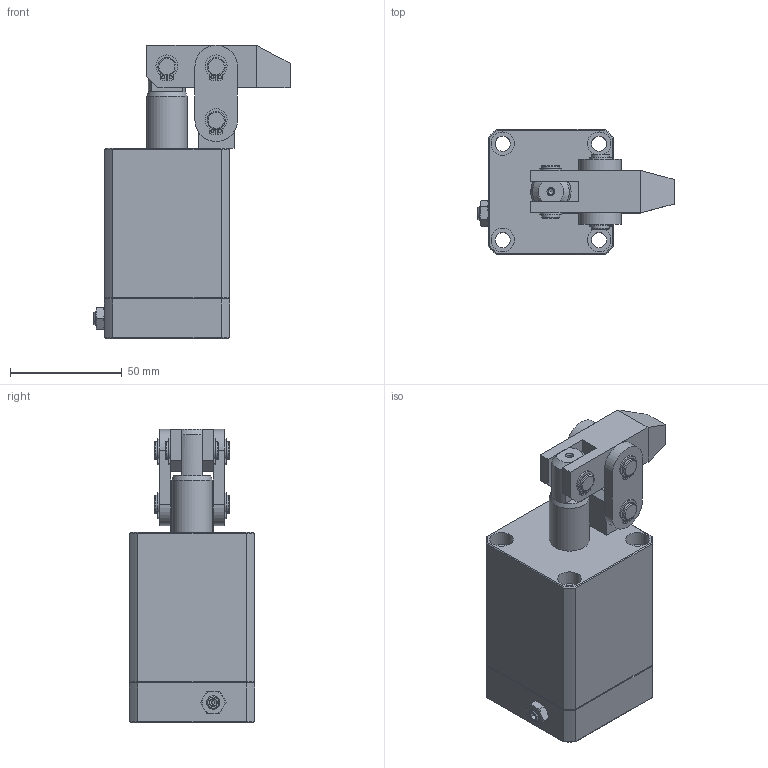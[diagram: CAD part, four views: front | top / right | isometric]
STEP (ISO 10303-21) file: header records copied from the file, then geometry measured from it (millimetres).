
FILE_DESCRIPTION(/* description */ ('Unknown'),/* implementation_level */ '2;1');
FILE_NAME(/* name */ 'HLB-MF25-A',/* time_stamp */ '2025-06-04T00:57:58+08:00',/* author */ ('Unknown'),/* organization */ ('Unknown'),/* preprocessor_version */ 'ST-DEVELOPER v16.7',/* originating_system */ 'DEX',/* authorisation */ $);
FILE_SCHEMA (('AUTOMOTIVE_DESIGN {1 0 10303 214 3 1 1}'));
Length unit declared in the file: millimetre
Products named in the file (8): HLB-MF25-A; HLB-MF25-CYLINDER; HLB-25-ｹﾔｩ!s; HLB-25-A; HLB-25-C扣; HLB-2502-AXLE CENTRE; HLB-25-PINµu; HLB-25-PINªø·
Assembly tree (14 placements, depth 2):
  HLB-MF25-A
    HLB-MF25-CYLINDER
    HLB-25-ｹﾔｩ!s  x2
    HLB-25-A
    HLB-25-C扣  x6
    HLB-2502-AXLE CENTRE
    HLB-25-PINµu
    HLB-25-PINªø·  x2
Bounding box: 87.6 x 56 x 131 mm (x, y, z)
Volume: 279554.1 mm3; surface area: 58075.5 mm2
Topology: 14 solids, 14 shells, 315 faces, 724 edges, 462 vertices
Faces by surface type: plane 136, cylinder 116, cone 43, bspline 12, torus 8
Full cylindrical faces by diameter (mm): 1.4 x12, 2.6 x1, 5 x2, 6 x1, 6.8 x4, 7.5 x6, 8 x18, 10 x2, 10.5 x4, 18 x2, 25 x2
Entity records: 6024 total; most frequent: CARTESIAN_POINT 1403, DIRECTION 889, ORIENTED_EDGE 822, EDGE_CURVE 411, AXIS2_PLACEMENT_3D 369, FACE_BOUND 312, EDGE_LOOP 311, VERTEX_POINT 283
